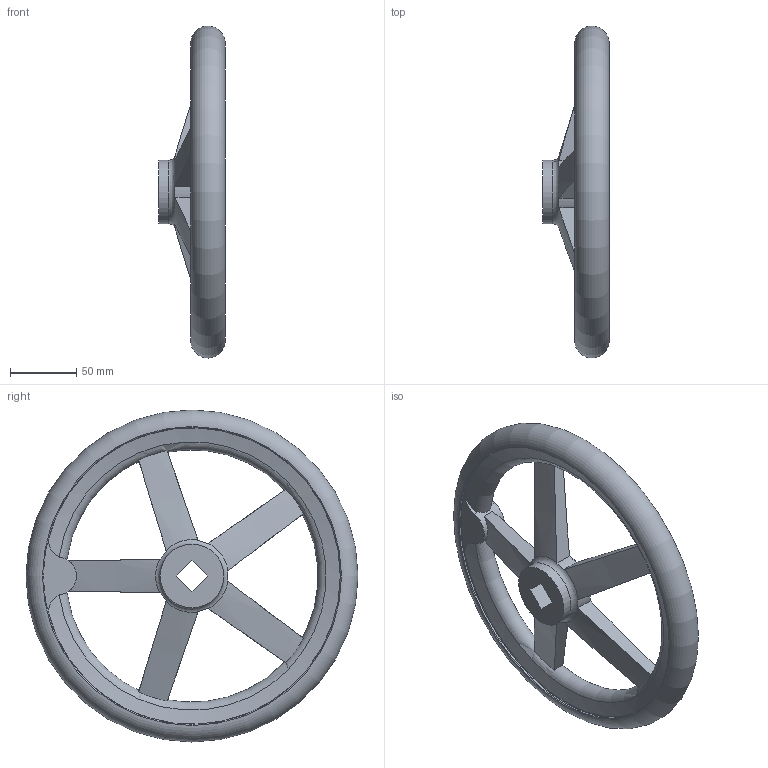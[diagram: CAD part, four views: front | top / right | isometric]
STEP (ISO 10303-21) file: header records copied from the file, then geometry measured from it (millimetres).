
FILE_DESCRIPTION( ( 'STEP AP203' ), '1' );
FILE_NAME( 'C:/Temp/Ganter_Step_05_03_2020/data/1_3/din_950/din_950_v/din_950_v_a/Handwheel DIN 950-AL-250-V17-A.stp', '2020-03-05T10:31:33', ( 'License CC BY-ND 4.0' ), ( 'CADENAS' ), ' ', 'PARTsolutions', ' ' );
FILE_SCHEMA( ( 'CONFIG_CONTROL_DESIGN' ) );
Length unit declared in the file: millimetre
Products named in the file (1): _Handwheel DIN 950-AL-250-V17-A
Bounding box: 50 x 249.99 x 249.99 mm (x, y, z)
Volume: 519603.7 mm3; surface area: 94976.6 mm2
Topology: 1 solids, 1 shells, 52 faces, 156 edges, 101 vertices
Faces by surface type: plane 18, cylinder 14, torus 12, cone 8
Full cylindrical faces by diameter (mm): 48 x2, 224 x2
Entity records: 2212 total; most frequent: CARTESIAN_POINT 893, ORIENTED_EDGE 280, DIRECTION 234, EDGE_CURVE 140, AXIS2_PLACEMENT_3D 103, VERTEX_POINT 98, EDGE_LOOP 71, FACE_OUTER_BOUND 63
